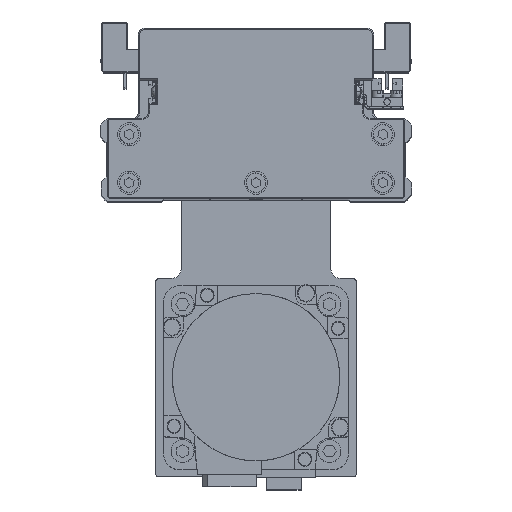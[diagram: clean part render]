
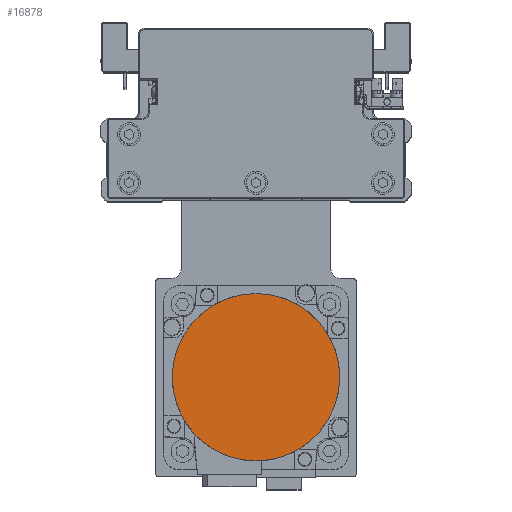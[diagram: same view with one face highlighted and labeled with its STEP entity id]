
A CAD part, top view. The second image highlights one B-rep face of the part: STEP entity #16878.
In plain terms, the highlighted planar face has unit normal (0, 0, 1) as drawn and (0, 0, -1) by its records, which use the part's own axes.
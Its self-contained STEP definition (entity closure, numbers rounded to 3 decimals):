
#2439 = ORIENTED_EDGE ( 'NONE', *, *, #8556, .F. ) ;
#3188 = CARTESIAN_POINT ( 'NONE',  ( 0., 36.3, -122.2 ) ) ;
#4521 = DIRECTION ( 'NONE',  ( 0., -1., 0. ) ) ;
#5263 = DIRECTION ( 'NONE',  ( 0., 0., 1. ) ) ;
#6499 = DIRECTION ( 'NONE',  ( 0., 0., 1. ) ) ;
#7124 = AXIS2_PLACEMENT_3D ( 'NONE', #33584, #6499, #18570 ) ;
#8556 = EDGE_CURVE ( 'NONE', #34617, #26311, #34664, .T. ) ;
#9453 = FACE_OUTER_BOUND ( 'NONE', #35148, .T. ) ;
#12735 = AXIS2_PLACEMENT_3D ( 'NONE', #19546, #31595, #4521 ) ;
#16462 = ORIENTED_EDGE ( 'NONE', *, *, #38455, .F. ) ;
#16878 = ADVANCED_FACE ( 'NONE', ( #9453 ), #21524, .F. ) ;
#17332 = DIRECTION ( 'NONE',  ( 0., 1., 0. ) ) ;
#17631 = AXIS2_PLACEMENT_3D ( 'NONE', #32346, #5263, #17332 ) ;
#18570 = DIRECTION ( 'NONE',  ( 1., 0., 0. ) ) ;
#19546 = CARTESIAN_POINT ( 'NONE',  ( 0., 0., -122.2 ) ) ;
#21524 = PLANE ( 'NONE',  #7124 ) ;
#26311 = VERTEX_POINT ( 'NONE', #26312 ) ;
#26312 = CARTESIAN_POINT ( 'NONE',  ( 0., -36.3, -122.2 ) ) ;
#29790 = CIRCLE ( 'NONE', #12735, 36.3 ) ;
#31595 = DIRECTION ( 'NONE',  ( 0., 0., 1. ) ) ;
#32346 = CARTESIAN_POINT ( 'NONE',  ( 0., 0., -122.2 ) ) ;
#33584 = CARTESIAN_POINT ( 'NONE',  ( 0., 0., -122.2 ) ) ;
#34617 = VERTEX_POINT ( 'NONE', #3188 ) ;
#34664 = CIRCLE ( 'NONE', #17631, 36.3 ) ;
#35148 = EDGE_LOOP ( 'NONE', ( #2439, #16462 ) ) ;
#38455 = EDGE_CURVE ( 'NONE', #26311, #34617, #29790, .T. ) ;
